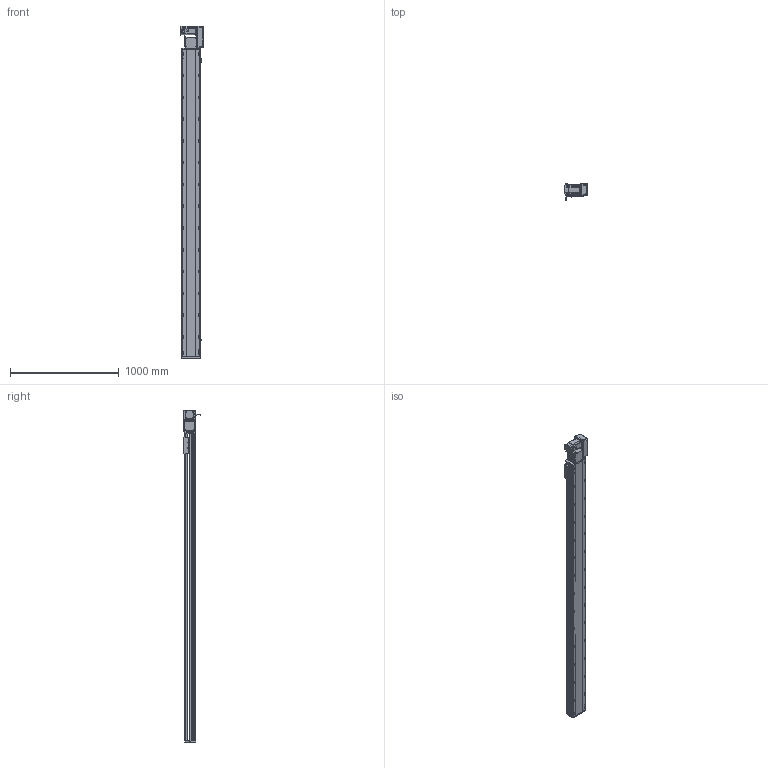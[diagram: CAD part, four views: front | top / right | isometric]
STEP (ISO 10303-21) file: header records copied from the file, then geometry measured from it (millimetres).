
FILE_DESCRIPTION (( 'STEP AP214' ), '1' );
FILE_NAME ('RTB17S-XX-2550-R-M75-C4.STEP', '2025-12-12T01:47:35', ( '' ), ( '' ), 'SwSTEP 2.0', 'SolidWorks 2018', '' );
FILE_SCHEMA (( 'AUTOMOTIVE_DESIGN' ));
Length unit declared in the file: millimetre
Products named in the file (15): RTB17S-XX-2550-R-M75-C4; RTB17S-L-014-T20-P75--々湍釱^RTB17S-R-々湍釱蚾饜-750W_RTB17S-XX-XX-R-M75-C4; RTB17S-L-004-賑釱^RTB17S-賑釱_RTB17S-XX-XX-R-M75-C4; 750W萇儂^RTB17S-XX-XX-R-M75-C4; RTB17S-L-007奻裔^RTB17S-XX-XX-R-M75-C4; RTB22S-GY-018P^RTB17S-R-々湍釱蚾饜-750W_RTB17S-XX-XX-R-M75-C4; RTB17S-R-々湍釱蚾饜-750W^RTB17S-XX-XX-R-M75-C4; RTB22S-GY-008-M75--萇儂啣^RTB17S-R-々湍釱蚾饜-750W_RTB17S-XX-XX-R-M75-C4; RTB22S-GY-005P^RTB17S-R-々湍釱蚾饜-750W_RTB17S-XX-XX-R-M75-C4; RTB17S-賑釱^RTB17S-XX-XX-R-M75-C4; EE672^RTB17S-XX-XX-R-M75-C4; RTB22S-GY-017P^RTB17S-R-々湍釱蚾饜-750W_RTB17S-XX-XX-R-M75-C4; RTB17-R-011菁釱^RTB17S-XX-XX-R-M75-C4; RTB17S-L-001-耜醱啣^RTB17S-XX-XX-R-M75-C4; RTH13-BL-012覜茼え俋离^RTB17S-賑釱_RTB17S-XX-XX-R-M75-C4
Assembly tree (17 placements, depth 3):
  RTB17S-XX-2550-R-M75-C4
    RTB17-R-011菁釱^RTB17S-XX-XX-R-M75-C4
    EE672^RTB17S-XX-XX-R-M75-C4  x3
    RTB17S-L-001-耜醱啣^RTB17S-XX-XX-R-M75-C4
    RTB17S-賑釱^RTB17S-XX-XX-R-M75-C4
      RTB17S-L-004-賑釱^RTB17S-賑釱_RTB17S-XX-XX-R-M75-C4
      RTH13-BL-012覜茼え俋离^RTB17S-賑釱_RTB17S-XX-XX-R-M75-C4
    RTB17S-L-007奻裔^RTB17S-XX-XX-R-M75-C4
    750W萇儂^RTB17S-XX-XX-R-M75-C4
    RTB17S-R-々湍釱蚾饜-750W^RTB17S-XX-XX-R-M75-C4
      RTB17S-L-014-T20-P75--々湍釱^RTB17S-R-々湍釱蚾饜-750W_RTB17S-XX-XX-R-M75-C4
      RTB22S-GY-005P^RTB17S-R-々湍釱蚾饜-750W_RTB17S-XX-XX-R-M75-C4
      RTB22S-GY-017P^RTB17S-R-々湍釱蚾饜-750W_RTB17S-XX-XX-R-M75-C4  x2
      RTB22S-GY-008-M75--萇儂啣^RTB17S-R-々湍釱蚾饜-750W_RTB17S-XX-XX-R-M75-C4
      RTB22S-GY-018P^RTB17S-R-々湍釱蚾饜-750W_RTB17S-XX-XX-R-M75-C4
Bounding box: 207.4 x 152.7 x 3049 mm (x, y, z)
Volume: 21890435.3 mm3; surface area: 3974829.3 mm2
Topology: 17 solids, 17 shells, 2217 faces, 6214 edges, 4022 vertices
Faces by surface type: plane 986, cylinder 815, bspline 294, cone 110, sphere 8, torus 4
Entity records: 64246 total; most frequent: CARTESIAN_POINT 19078, ORIENTED_EDGE 9272, DIRECTION 8582, EDGE_CURVE 4636, AXIS2_PLACEMENT_3D 3042, VERTEX_POINT 3026, VECTOR 2498, LINE 2498
